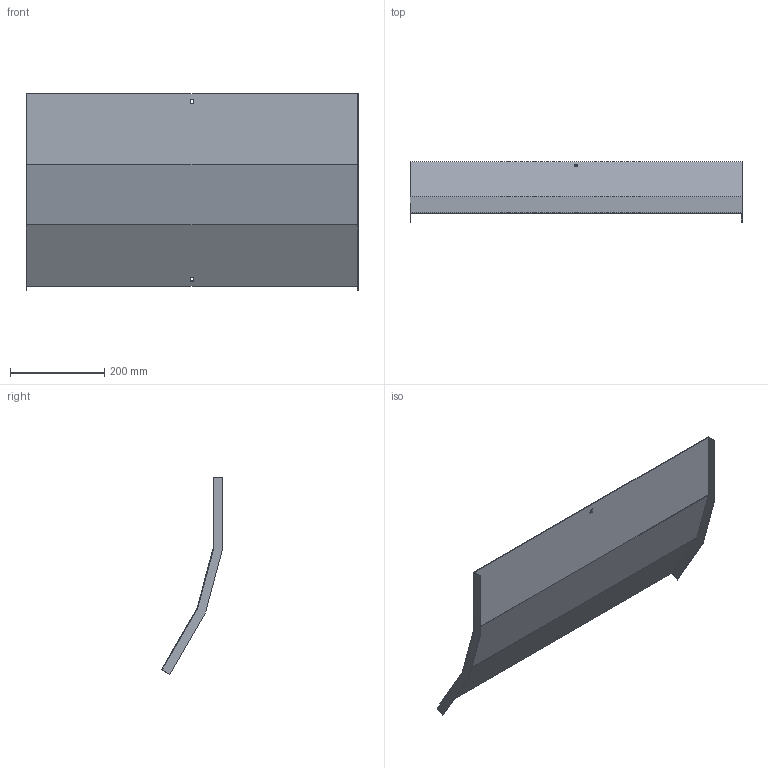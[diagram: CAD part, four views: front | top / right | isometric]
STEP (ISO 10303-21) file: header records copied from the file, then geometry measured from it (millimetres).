
FILE_DESCRIPTION (( 'STEP AP214' ), '1' );
FILE_NAME ('A2X32N5R700X.step', '2025-03-20T09:39:39', ( '' ), ( '' ), 'SwSTEP 2.0', 'SolidWorks 2023', '' );
FILE_SCHEMA (( 'AUTOMOTIVE_DESIGN' ));
Length unit declared in the file: millimetre
Products named in the file (1): A2X32N5R700X
Bounding box: 703 x 128.96 x 416.64 mm (x, y, z)
Volume: 479187.2 mm3; surface area: 642553.2 mm2
Topology: 1 solids, 1 shells, 26 faces, 72 edges, 48 vertices
Faces by surface type: plane 26
Entity records: 847 total; most frequent: CARTESIAN_POINT 147, ORIENTED_EDGE 144, DIRECTION 126, EDGE_CURVE 72, VECTOR 72, LINE 72, VERTEX_POINT 48, EDGE_LOOP 30
